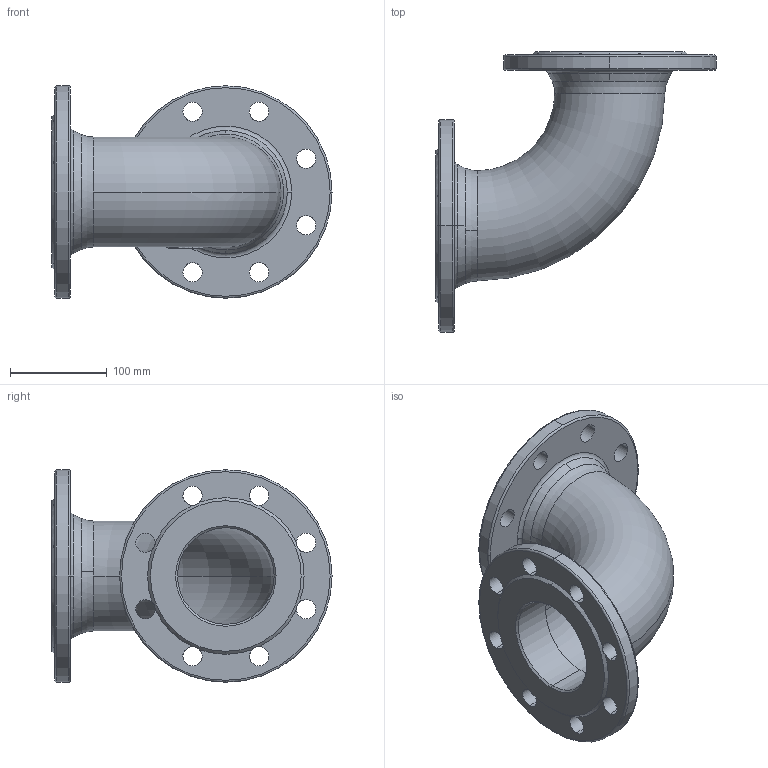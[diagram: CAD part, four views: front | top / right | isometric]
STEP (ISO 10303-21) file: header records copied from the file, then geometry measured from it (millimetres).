
FILE_DESCRIPTION (( 'STEP AP203' ), '1' );
FILE_NAME ('O_712_0610_DN100_1X_REV01.step', '2021-11-19T09:53:25', ( '' ), ( '' ), 'SwSTEP 2.0', 'SolidWorks 2019', '' );
FILE_SCHEMA (( 'CONFIG_CONTROL_DESIGN' ));
Length unit declared in the file: millimetre
Products named in the file (1): O_712_0610_DN100_1X_REV01
Bounding box: 290 x 290 x 220 mm (x, y, z)
Volume: 1627151.9 mm3; surface area: 326660.1 mm2
Topology: 1 solids, 1 shells, 119 faces, 365 edges, 240 vertices
Faces by surface type: cylinder 42, plane 41, torus 20, cone 12, bspline 4
Entity records: 6194 total; most frequent: CARTESIAN_POINT 2877, ORIENTED_EDGE 730, DIRECTION 645, EDGE_CURVE 365, AXIS2_PLACEMENT_3D 278, VERTEX_POINT 240, CIRCLE 162, EDGE_LOOP 145
